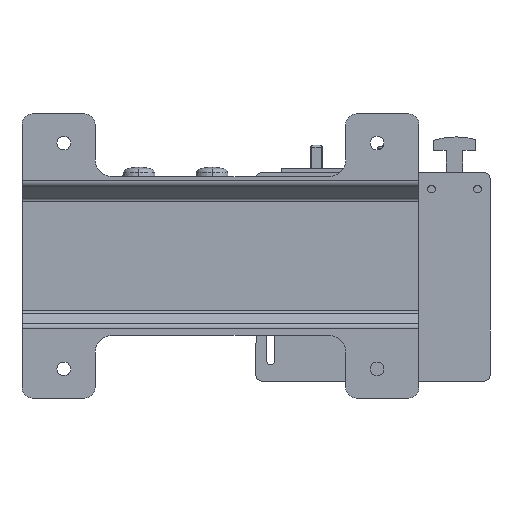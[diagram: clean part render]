
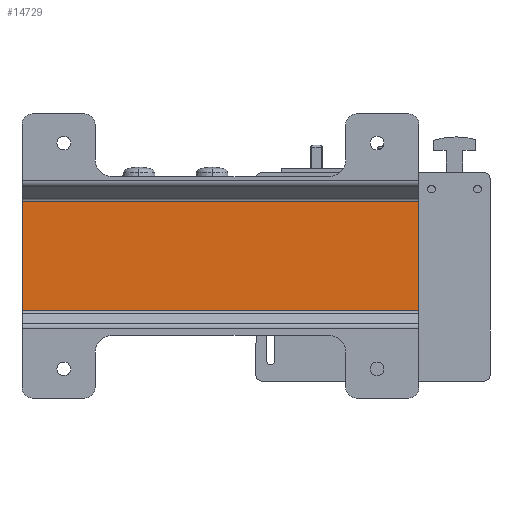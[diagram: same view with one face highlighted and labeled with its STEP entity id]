
A CAD part, front view. The second image highlights one B-rep face of the part: STEP entity #14729.
In plain terms, the highlighted planar face has unit normal (0, -1, 0).
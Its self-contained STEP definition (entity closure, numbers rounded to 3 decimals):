
#166 = CARTESIAN_POINT ( 'NONE',  ( 134., -16.5, -58.268 ) ) ;
#2369 = ORIENTED_EDGE ( 'NONE', *, *, #26411, .F. ) ;
#2388 = CARTESIAN_POINT ( 'NONE',  ( 134., -16.5, -5.732 ) ) ;
#3293 = CARTESIAN_POINT ( 'NONE',  ( 134., -16.5, -58.268 ) ) ;
#4887 = DIRECTION ( 'NONE',  ( 0., 0., 1. ) ) ;
#5773 = VERTEX_POINT ( 'NONE', #3293 ) ;
#6133 = LINE ( 'NONE', #21367, #12691 ) ;
#6824 = EDGE_CURVE ( 'NONE', #19445, #10275, #26959, .T. ) ;
#9148 = DIRECTION ( 'NONE',  ( -1., 0., 0. ) ) ;
#10144 = CARTESIAN_POINT ( 'NONE',  ( -56., -16.5, -58.268 ) ) ;
#10275 = VERTEX_POINT ( 'NONE', #10144 ) ;
#10834 = AXIS2_PLACEMENT_3D ( 'NONE', #2388, #19758, #4887 ) ;
#12691 = VECTOR ( 'NONE', #26380, 1000. ) ;
#12747 = CARTESIAN_POINT ( 'NONE',  ( 134., -16.5, -5.732 ) ) ;
#14729 = ADVANCED_FACE ( 'NONE', ( #18363 ), #24505, .F. ) ;
#16227 = EDGE_CURVE ( 'NONE', #31409, #19445, #17424, .T. ) ;
#17424 = LINE ( 'NONE', #26513, #29865 ) ;
#17772 = DIRECTION ( 'NONE',  ( 0., 0., -1. ) ) ;
#17901 = LINE ( 'NONE', #166, #30329 ) ;
#18363 = FACE_OUTER_BOUND ( 'NONE', #27600, .T. ) ;
#19445 = VERTEX_POINT ( 'NONE', #21536 ) ;
#19758 = DIRECTION ( 'NONE',  ( 0., 1., 0. ) ) ;
#20338 = VECTOR ( 'NONE', #17772, 1000. ) ;
#21367 = CARTESIAN_POINT ( 'NONE',  ( 134., -16.5, -5.732 ) ) ;
#21536 = CARTESIAN_POINT ( 'NONE',  ( -56., -16.5, -5.732 ) ) ;
#21866 = ORIENTED_EDGE ( 'NONE', *, *, #24546, .F. ) ;
#22904 = ORIENTED_EDGE ( 'NONE', *, *, #16227, .T. ) ;
#24505 = PLANE ( 'NONE',  #10834 ) ;
#24546 = EDGE_CURVE ( 'NONE', #31409, #5773, #6133, .T. ) ;
#24737 = DIRECTION ( 'NONE',  ( -1., 0., 0. ) ) ;
#26380 = DIRECTION ( 'NONE',  ( 0., 0., -1. ) ) ;
#26411 = EDGE_CURVE ( 'NONE', #5773, #10275, #17901, .T. ) ;
#26513 = CARTESIAN_POINT ( 'NONE',  ( 134., -16.5, -5.732 ) ) ;
#26959 = LINE ( 'NONE', #27537, #20338 ) ;
#27537 = CARTESIAN_POINT ( 'NONE',  ( -56., -16.5, -5.732 ) ) ;
#27600 = EDGE_LOOP ( 'NONE', ( #29757, #2369, #21866, #22904 ) ) ;
#29757 = ORIENTED_EDGE ( 'NONE', *, *, #6824, .T. ) ;
#29865 = VECTOR ( 'NONE', #9148, 1000. ) ;
#30329 = VECTOR ( 'NONE', #24737, 1000. ) ;
#31409 = VERTEX_POINT ( 'NONE', #12747 ) ;
